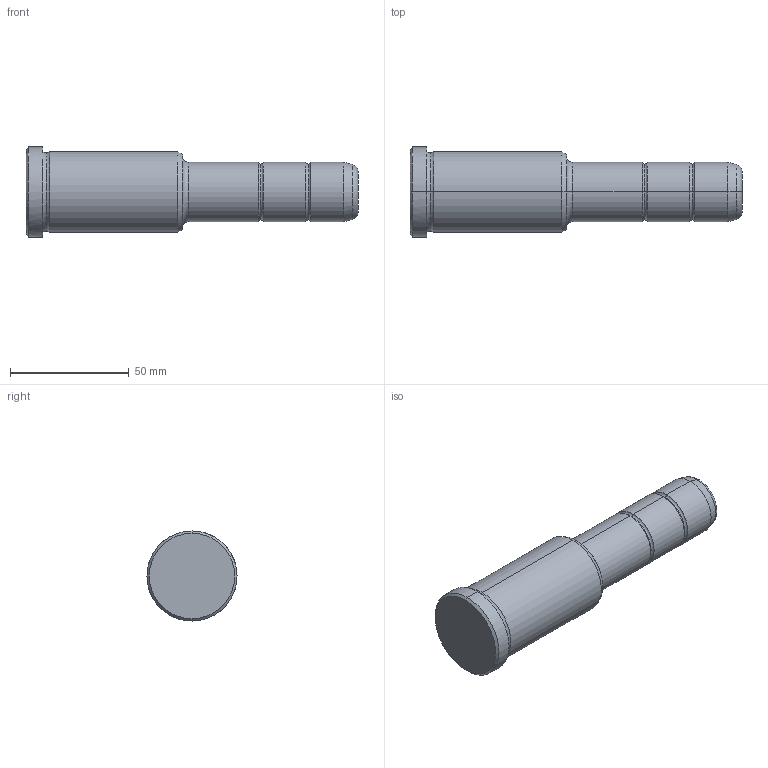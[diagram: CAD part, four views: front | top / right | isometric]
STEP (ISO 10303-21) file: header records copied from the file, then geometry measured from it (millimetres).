
FILE_DESCRIPTION(('CATIA V5 STEP Exchange'),'2;1');
FILE_NAME('C:\Users\Utente\Desktop\IO LAVORO\3D X SITO CF\X SITO\PLASTICA\351\351-25X66X140.stp','2021-09-07T10:09:09+00:00',('none'),('none'),'CATIA Version 5 Release 20 GA (IN-10)','CATIA V5 STEP AP203','none');
FILE_SCHEMA(('CONFIG_CONTROL_DESIGN'));
Length unit declared in the file: millimetre
Products named in the file (1): 351-25X66X140
Bounding box: 140 x 38 x 38 mm (x, y, z)
Volume: 97041.7 mm3; surface area: 14907.9 mm2
Topology: 1 solids, 1 shells, 36 faces, 102 edges, 70 vertices
Faces by surface type: torus 16, cylinder 10, cone 6, plane 4
Entity records: 1292 total; most frequent: CARTESIAN_POINT 321, ORIENTED_EDGE 204, DIRECTION 166, AXIS2_PLACEMENT_3D 115, EDGE_CURVE 102, CIRCLE 78, VERTEX_POINT 70, EDGE_LOOP 38
